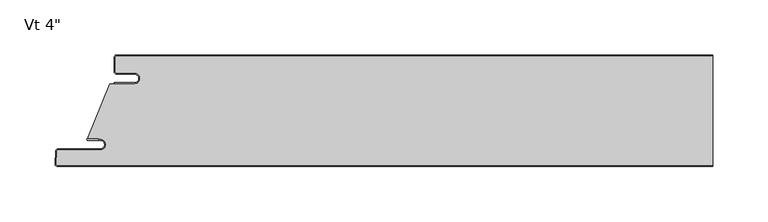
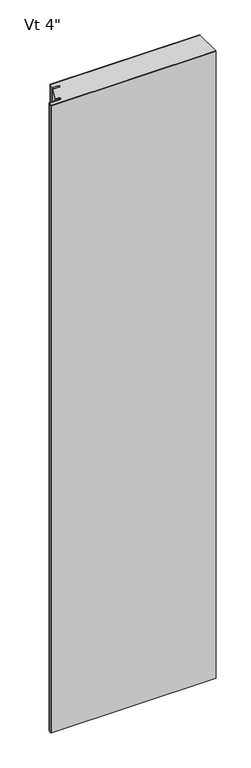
"""IFC4 building model written with IfcOpenShell, lengths in millimetres: plate geometry."""

from ifc_helpers import new_model, si_unit, point, frame_2d, origin, origin_with_axes, place, context, project, spatial, polyline, circle_curve, trimmed, segment, composite_curve, outline, extrude, source, transform, mapped, element, save


def plate_696052eb(model_context):
    return source(origin(), model_context, "Body", "SweptSolid", [
        extrude(outline(composite_curve([segment(polyline([(-253.4499998, -16.4625), (-269.3249998, -16.4625)]), True, "CONTINUOUS"), segment(trimmed(circle_curve(frame_2d((-269.3249998, -15.08125)), 1.38125), [point((-269.3249998, -16.4625))], [point((-270.7062498, -15.08125))], False, "CARTESIAN"), True, "CONTINUOUS"), segment(polyline([(-270.7062498, -15.08125), (-270.7062498, -2.38125)]), True, "CONTINUOUS"), segment(trimmed(circle_curve(frame_2d((-269.3249998, -2.38125)), 1.38125), [point((-270.7062498, -2.38125))], [point((-269.3249998, -1.0))], False, "CARTESIAN"), True, "CONTINUOUS"), segment(polyline([(-269.3249998, -1.0), (272.4999998, -1.0), (272.4999998, -100.6), (-323.1862034, -100.6)]), True, "CONTINUOUS"), segment(trimmed(circle_curve(frame_2d((-323.1862034, -99.21875)), 1.38125), [point((-323.1862034, -100.6))], [point((-324.5655604, -99.146461))], False, "CARTESIAN"), True, "CONTINUOUS"), segment(polyline([(-324.5655604, -99.146461), (-323.983179, -88.033961)]), True, "CONTINUOUS"), segment(trimmed(circle_curve(frame_2d((-322.6038219, -88.10625)), 1.38125), [point((-323.983179, -88.033961))], [point((-322.6038219, -86.725))], False, "CARTESIAN"), True, "CONTINUOUS"), segment(polyline([(-322.6038219, -86.725), (-284.4205173, -86.725)]), True, "CONTINUOUS"), segment(trimmed(circle_curve(frame_2d((-284.4205173, -81.75625)), 4.96875), [point((-284.4205173, -86.725))], [point((-284.4205173, -76.7875))], True, "CARTESIAN"), True, "CONTINUOUS"), segment(polyline([(-284.4205173, -76.7875), (-286.0080173, -76.99375), (-286.0080173, -76.2), (-295.5187498, -76.2), (-295.5187498, -74.6157227), (-275.6323421, -26.4), (-253.4499998, -26.4)]), True, "CONTINUOUS"), segment(trimmed(circle_curve(frame_2d((-253.4499998, -21.43125)), 4.96875), [point((-253.4499998, -26.4))], [point((-253.4499998, -16.4625))], True, "CARTESIAN"), True, "CONTINUOUS")], self_intersect=False)), origin_with_axes(), (0.0, 0.0, 1.0), 2400.0),
        extrude(outline(composite_curve([segment(polyline([(-271.7062498, -25.4), (-253.4499998, -25.4)]), True, "CONTINUOUS"), segment(trimmed(circle_curve(frame_2d((-253.4499998, -21.43125)), 3.96875), [point((-253.4499998, -25.4))], [point((-253.4499998, -17.4625))], True, "CARTESIAN"), True, "CONTINUOUS"), segment(polyline([(-253.4499998, -17.4625), (-269.3249998, -17.4625)]), True, "CONTINUOUS"), segment(trimmed(circle_curve(frame_2d((-269.3249998, -15.08125)), 2.38125), [point((-269.3249998, -17.4625))], [point((-271.7062498, -15.08125))], False, "CARTESIAN"), True, "CONTINUOUS"), segment(polyline([(-271.7062498, -15.08125), (-271.7062498, -2.38125)]), True, "CONTINUOUS"), segment(trimmed(circle_curve(frame_2d((-269.3249998, -2.38125)), 2.38125), [point((-271.7062498, -2.38125))], [point((-269.3249998, 0.0))], False, "CARTESIAN"), True, "CONTINUOUS"), segment(polyline([(-269.3249998, 0.0), (272.4999998, 0.0), (272.4999998, -1.0), (-269.3249998, -1.0)]), True, "CONTINUOUS"), segment(trimmed(circle_curve(frame_2d((-269.3249998, -2.38125)), 1.38125), [point((-269.3249998, -1.0))], [point((-270.7062498, -2.38125))], True, "CARTESIAN"), True, "CONTINUOUS"), segment(polyline([(-270.7062498, -2.38125), (-270.7062498, -15.08125)]), True, "CONTINUOUS"), segment(trimmed(circle_curve(frame_2d((-269.3249998, -15.08125)), 1.38125), [point((-270.7062498, -15.08125))], [point((-269.3249998, -16.4625))], True, "CARTESIAN"), True, "CONTINUOUS"), segment(polyline([(-269.3249998, -16.4625), (-253.4499998, -16.4625)]), True, "CONTINUOUS"), segment(trimmed(circle_curve(frame_2d((-253.4499998, -21.43125)), 4.96875), [point((-253.4499998, -16.4625))], [point((-253.4499998, -26.4))], False, "CARTESIAN"), True, "CONTINUOUS"), segment(polyline([(-253.4499998, -26.4), (-271.7062498, -26.4), (-271.7062498, -25.4)]), True, "CONTINUOUS")], self_intersect=False)), origin_with_axes(), (0.0, 0.0, 1.0), 2400.0),
        extrude(outline(composite_curve([segment(polyline([(-295.7314548, -76.2), (-286.0080173, -76.2), (-286.0080173, -76.99375), (-284.4205173, -76.7875)]), True, "CONTINUOUS"), segment(trimmed(circle_curve(frame_2d((-284.4205173, -81.75625)), 4.96875), [point((-284.4205173, -76.7875))], [point((-284.4205173, -86.725))], False, "CARTESIAN"), True, "CONTINUOUS"), segment(polyline([(-284.4205173, -86.725), (-322.6038219, -86.725)]), True, "CONTINUOUS"), segment(trimmed(circle_curve(frame_2d((-322.6038219, -88.10625)), 1.38125), [point((-322.6038219, -86.725))], [point((-323.983179, -88.033961))], True, "CARTESIAN"), True, "CONTINUOUS"), segment(polyline([(-323.983179, -88.033961), (-324.5655604, -99.146461)]), True, "CONTINUOUS"), segment(trimmed(circle_curve(frame_2d((-323.1862034, -99.21875)), 1.38125), [point((-324.5655604, -99.146461))], [point((-323.1862034, -100.6))], True, "CARTESIAN"), True, "CONTINUOUS"), segment(polyline([(-323.1862034, -100.6), (272.4999998, -100.6), (272.4999998, -101.6), (-323.1862034, -101.6)]), True, "CONTINUOUS"), segment(trimmed(circle_curve(frame_2d((-323.1862034, -99.21875)), 2.38125), [point((-323.1862034, -101.6))], [point((-325.5641899, -99.094125))], False, "CARTESIAN"), True, "CONTINUOUS"), segment(polyline([(-325.5641899, -99.094125), (-324.9818085, -87.981625)]), True, "CONTINUOUS"), segment(trimmed(circle_curve(frame_2d((-322.6038219, -88.10625)), 2.38125), [point((-324.9818085, -87.981625))], [point((-322.6038219, -85.725))], False, "CARTESIAN"), True, "CONTINUOUS"), segment(polyline([(-322.6038219, -85.725), (-284.4205173, -85.725)]), True, "CONTINUOUS"), segment(trimmed(circle_curve(frame_2d((-284.4205173, -81.75625)), 3.96875), [point((-284.4205173, -85.725))], [point((-284.4205173, -77.7875))], True, "CARTESIAN"), True, "CONTINUOUS"), segment(polyline([(-284.4205173, -77.7875), (-295.7314548, -77.7875)]), True, "CONTINUOUS"), segment(trimmed(circle_curve(frame_2d((-295.7314548, -76.99375)), 0.79375), [point((-295.7314548, -77.7875))], [point((-295.7314548, -76.2))], False, "CARTESIAN"), True, "CONTINUOUS")], self_intersect=False)), origin_with_axes(), (0.0, 0.0, 1.0), 2400.0),
    ])


if __name__ == "__main__":
    model = new_model("IFC4")
    model_context = context("Model", 3, world=origin())
    ifc_project = project(units=[si_unit("LENGTHUNIT", "METRE", prefix="MILLI")], contexts=[model_context])
    site = spatial("IfcSite", under=ifc_project)
    building = spatial("IfcBuilding", under=site)
    placement = place(None, origin())
    plate_shape = plate_696052eb(model_context)
    element("IfcPlate", 1, ObjectType="KIP-36-DWTR-R19-CP-Vt-F : Vt 4\"", at=placement, inside=building, context=model_context, shape_type="MappedRepresentation", body=[
        mapped(plate_shape, transform((0.0, 0.0, 0.0), x_axis=(1.0, 0.0, 0.0), y_axis=(0.0, 1.0, 0.0), z_axis=(0.0, 0.0, 1.0))),
    ])
    save(model, "model.ifc")
